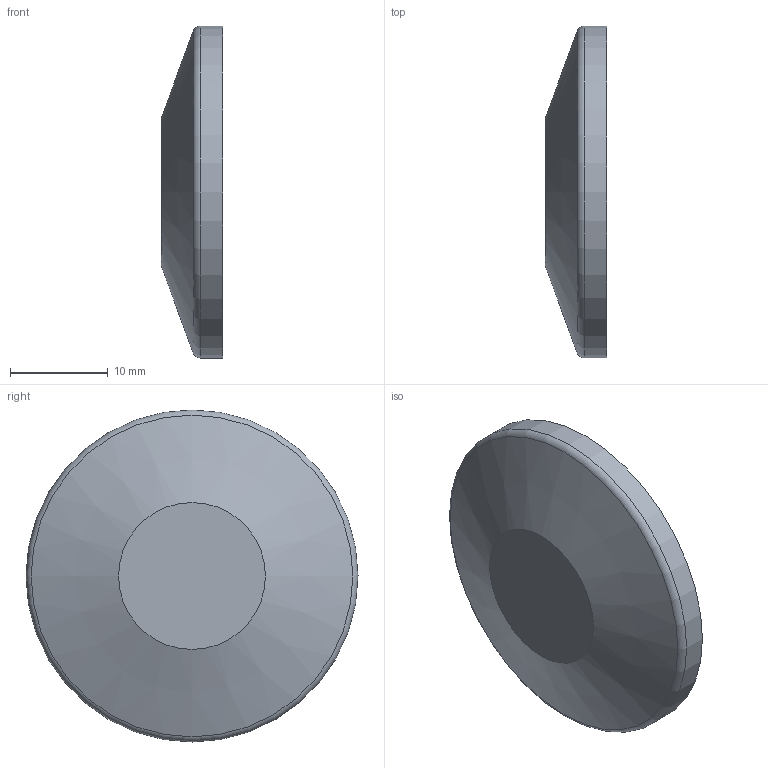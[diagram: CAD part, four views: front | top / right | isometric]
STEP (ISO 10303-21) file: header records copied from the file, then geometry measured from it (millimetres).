
FILE_DESCRIPTION(/* description */ (''),/* implementation_level */ '2;1');
FILE_NAME(/* name */ '12766-Ferrule size-34.stp',/* time_stamp */ '2024-12-26T21:12:07+01:00',/* author */ ('roger.thijssen'),/* organization */ (''),/* preprocessor_version */ 'ST-DEVELOPER v20',/* originating_system */ 'Autodesk Inventor 2025',/* authorisation */ '');
FILE_SCHEMA (('AUTOMOTIVE_DESIGN { 1 0 10303 214 3 1 1 }'));
Length unit declared in the file: millimetre
Products named in the file (1): 12766-Ferrule size-34
Bounding box: 6.3 x 34 x 34 mm (x, y, z)
Volume: 3989.1 mm3; surface area: 2281.3 mm2
Topology: 1 solids, 1 shells, 11 faces, 22 edges, 14 vertices
Faces by surface type: torus 4, cone 3, plane 3, cylinder 1
Full cylindrical faces by diameter (mm): 34 x1
Entity records: 361 total; most frequent: DIRECTION 64, CARTESIAN_POINT 48, ORIENTED_EDGE 44, AXIS2_PLACEMENT_3D 30, EDGE_CURVE 22, CIRCLE 18, VERTEX_POINT 14, EDGE_LOOP 12
